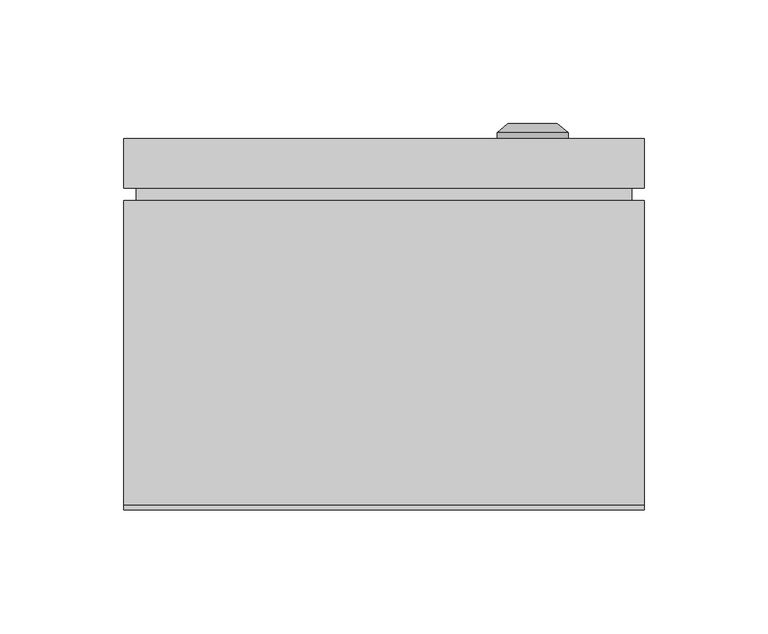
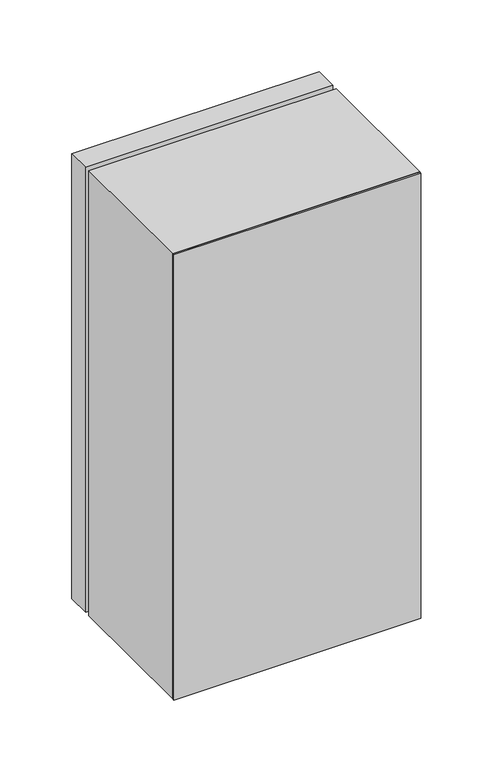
"""IFC4 building model written with IfcOpenShell, lengths in millimetres: proxy geometry, ЩМП_IP65 : ЩМП-4.2.1-0_400х210х150."""

from ifc_helpers import new_model, si_unit, frame, origin, origin_with_axes, place, context, project, spatial, polyline, circle_curve, outline, extrude, source, transform, mapped, element, save
from ifc_brep_helpers import plane_surface, cylinder_surface, revolved_surface, advanced_brep


def electrical_equipment_16379dc4(model_context):
    return source(origin(), model_context, "Body", "SolidModel", [
        extrude(outline(polyline([(100.0, 125.0), (-100.0, 125.0), (-100.0, 130.0), (100.0, 130.0), (100.0, 125.0)])), frame((0.0, 0.0, 5.0), z_axis=(0.0, 0.0, 1.0), x_axis=(1.0, 0.0, 0.0)), (0.0, 0.0, 1.0), 390.0),
        extrude(outline(polyline([(105.0, 130.0), (-105.0, 130.0), (-105.0, 150.0), (105.0, 150.0), (105.0, 130.0)])), origin_with_axes(), (0.0, 0.0, 1.0), 400.0),
        advanced_brep(
        [(45.669873, 150.0, 200.0), (74.330127, 150.0, 200.0), (60.0, 150.0, 200.0), (45.669873, 152.366592, 200.0), (74.330127, 152.366592, 200.0), (50.0, 156.0, 200.0), (70.0, 156.0, 200.0), (58.1080471, 156.0, 200.0), (61.8919529, 156.0, 200.0), (58.1080471, 154.9822294, 200.0), (61.8919529, 154.9822294, 200.0), (60.0, 154.9822294, 200.0)],
        [
            (0, 1, circle_curve(frame((60.0, 150.0, 200.0), z_axis=(0.0, -1.0, 0.0), x_axis=(1.0, 0.0, 0.0)), 14.330127)),
            (1, 2),
            (2, 0),
            (1, 0, circle_curve(frame((60.0, 150.0, 200.0), z_axis=(0.0, -1.0, 0.0), x_axis=(1.0, 0.0, 0.0)), 14.330127)),
            (3, 4, circle_curve(frame((60.0, 152.366592, 200.0), z_axis=(0.0, -1.0, 0.0), x_axis=(1.0, 0.0, 0.0)), 14.330127)),
            (4, 1),
            (0, 3),
            (4, 3, circle_curve(frame((60.0, 152.366592, 200.0), z_axis=(0.0, -1.0, 0.0), x_axis=(1.0, 0.0, 0.0)), 14.330127)),
            (5, 6, circle_curve(frame((60.0, 156.0, 200.0), z_axis=(0.0, -1.0, 0.0), x_axis=(1.0, 0.0, 0.0)), 10.0)),
            (6, 4),
            (3, 5),
            (6, 5, circle_curve(frame((60.0, 156.0, 200.0), z_axis=(0.0, -1.0, 0.0), x_axis=(1.0, 0.0, 0.0)), 10.0)),
            (7, 8, circle_curve(frame((60.0, 156.0, 200.0), z_axis=(0.0, -1.0, 0.0), x_axis=(1.0, 0.0, 0.0)), 1.8919529)),
            (8, 6),
            (5, 7),
            (8, 7, circle_curve(frame((60.0, 156.0, 200.0), z_axis=(0.0, -1.0, 0.0), x_axis=(1.0, 0.0, 0.0)), 1.8919529)),
            (9, 10, circle_curve(frame((60.0, 154.9822294, 200.0), z_axis=(0.0, -1.0, 0.0), x_axis=(1.0, 0.0, 0.0)), 1.8919529)),
            (10, 8),
            (7, 9),
            (10, 9, circle_curve(frame((60.0, 154.9822294, 200.0), z_axis=(0.0, -1.0, 0.0), x_axis=(1.0, 0.0, 0.0)), 1.8919529)),
            (11, 10),
            (9, 11),
        ],
        [
            plane_surface(frame((60.0, 150.0, 200.0), z_axis=(0.0, -1.0, 0.0), x_axis=(1.0, 0.0, 0.0))),
            cylinder_surface(frame((60.0, 163.1348851, 200.0), z_axis=(0.0, 1.0, 0.0), x_axis=(1.0, 0.0, 0.0)), 14.330127),
            revolved_surface(polyline([(74.330127, 152.366592, 200.0), (70.0, 156.0, 200.0)]), (60.0, 163.1348851, 200.0), (0.0, 1.0, 0.0)),
            plane_surface(frame((60.0, 156.0, 200.0), z_axis=(0.0, 1.0, 0.0), x_axis=(1.0, 0.0, 0.0))),
            revolved_surface(polyline([(61.8919529, 156.0, 200.0), (61.8919529, 154.9822294, 200.0)]), (60.0, 163.1348851, 200.0), (0.0, 1.0, 0.0)),
            plane_surface(frame((60.0, 154.9822294, 200.0), z_axis=(0.0, 1.0, 0.0), x_axis=(1.0, 0.0, 0.0))),
        ],
        [
            (0, [[1, 2, 3]]),
            (0, [[4, -3, -2]]),
            (1, [[5, 6, -1, 7]]),
            (1, [[8, -7, -4, -6]]),
            (2, [[9, 10, -5, 11]]),
            (2, [[12, -11, -8, -10]]),
            (3, [[13, 14, -9, 15]]),
            (3, [[16, -15, -12, -14]]),
            (4, [[17, 18, -13, 19]]),
            (4, [[20, -19, -16, -18]]),
            (5, [[21, -17, 22]]),
            (5, [[-22, -20, -21]]),
        ],
    ),
        extrude(outline(polyline([(400.0, -105.0033905), (0.0, -105.0033905), (0.0, 104.9966095), (400.0, 104.9966095), (400.0, -105.0033905)]), holes=[polyline([(365.0, -70.0033905), (365.0, 69.9966095), (35.0, 69.9966095), (35.0, -70.0033905), (365.0, -70.0033905)])]), frame((0.0, 2.0, 0.0), z_axis=(0.0, 1.0, 0.0), x_axis=(0.0, 0.0, 1.0)), (0.0, 0.0, 1.0), 123.0),
        extrude(outline(polyline([(105.0, 0.0), (-105.0, 0.0), (-105.0, 2.0), (105.0, 2.0), (105.0, 0.0)])), origin_with_axes(), (0.0, 0.0, 1.0), 400.0),
    ])


if __name__ == "__main__":
    model = new_model("IFC4")
    model_context = context("Model", 3, world=origin())
    ifc_project = project(units=[si_unit("LENGTHUNIT", "METRE", prefix="MILLI")], contexts=[model_context])
    site = spatial("IfcSite", under=ifc_project)
    building = spatial("IfcBuilding", under=site)
    placement = place(None, origin())
    electrical_equipment_shape = electrical_equipment_16379dc4(model_context)
    element("IfcBuildingElementProxy", 1, Name="ЩМП_IP65 : ЩМП-4.2.1-0_400х210х150", ObjectType="ЩМП_IP65 : ЩМП-4.2.1-0_400х210х150", at=placement, inside=building, context=model_context, shape_type="MappedRepresentation", body=[
        mapped(electrical_equipment_shape, transform((0.0, 0.0, 0.0), x_axis=(1.0, 0.0, 0.0), y_axis=(0.0, 1.0, 0.0), z_axis=(0.0, 0.0, 1.0))),
    ])
    save(model, "model.ifc")
